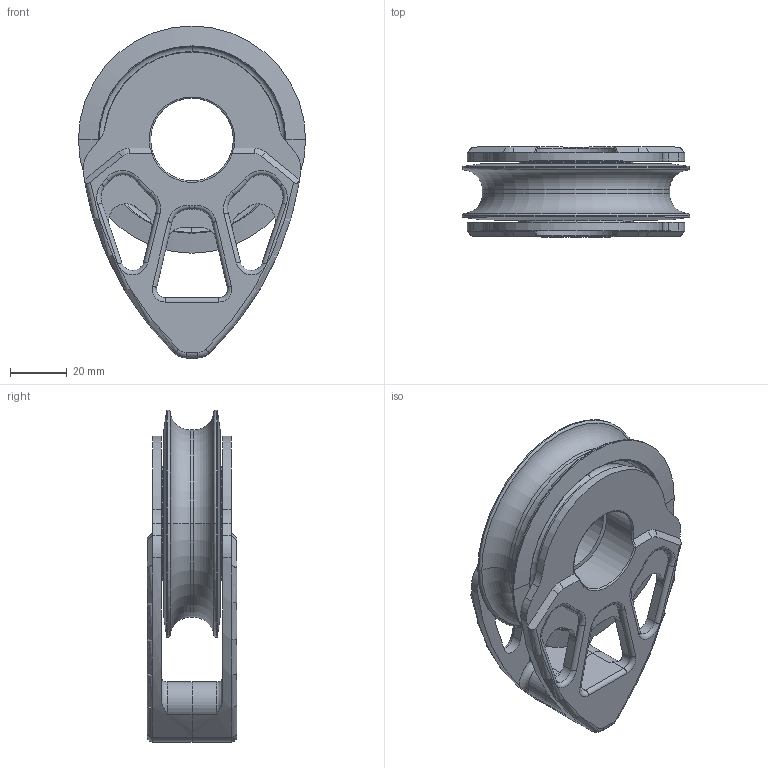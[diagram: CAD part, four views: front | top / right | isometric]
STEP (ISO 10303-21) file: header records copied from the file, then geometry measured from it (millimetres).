
FILE_DESCRIPTION((''),'2;1');
FILE_NAME('29901807_ASM','2005-05-31T',('NBelton'),(''),'PRO/ENGINEER BY PARAMETRIC TECHNOLOGY CORPORATION, 2004320','PRO/ENGINEER BY PARAMETRIC TECHNOLOGY CORPORATION, 2004320','');
FILE_SCHEMA(('CONFIG_CONTROL_DESIGN'));
Length unit declared in the file: millimetre
Products named in the file (3): 25000611; 25002261; 29901807_ASM
Assembly tree (3 placements, depth 2):
  29901807_ASM
    25000611
    25002261  x2
Bounding box: 80 x 31.6 x 116.9 mm (x, y, z)
Volume: 83197 mm3; surface area: 44610 mm2
Topology: 3 solids, 3 shells, 262 faces, 658 edges, 404 vertices
Faces by surface type: cylinder 112, torus 74, plane 56, cone 16, bspline 4
Entity records: 4924 total; most frequent: CARTESIAN_POINT 934, DIRECTION 924, ORIENTED_EDGE 774, AXIS2_PLACEMENT_3D 393, EDGE_CURVE 387, VERTEX_POINT 234, CIRCLE 229, EDGE_LOOP 173
